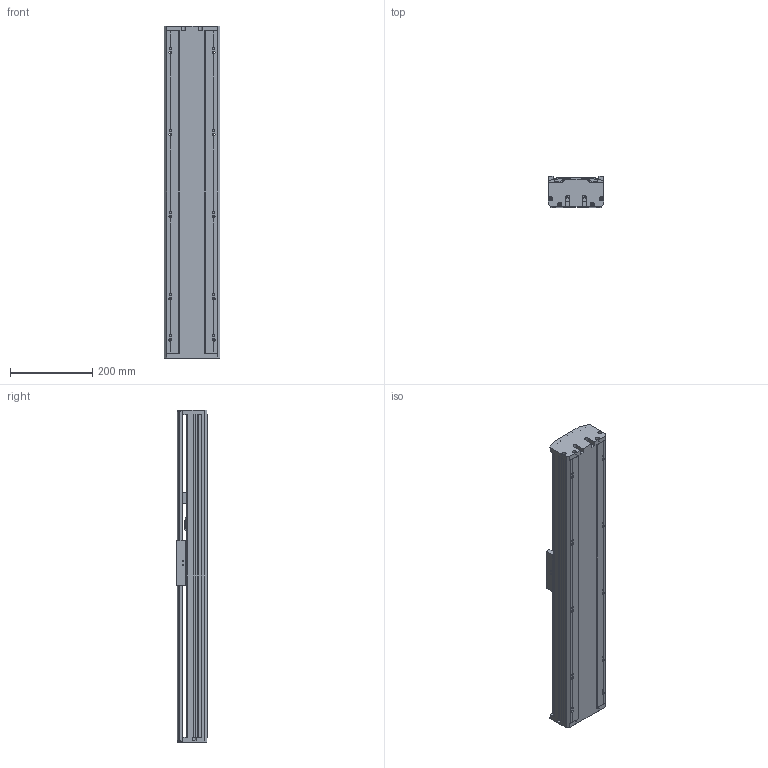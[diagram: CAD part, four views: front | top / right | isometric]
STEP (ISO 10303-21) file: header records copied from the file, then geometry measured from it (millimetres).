
FILE_DESCRIPTION(/* description */ (''),/* implementation_level */ '2;1');
FILE_NAME(/* name */ 'TKA136-FI-350_asm1.stp',/* time_stamp */ '2016-05-07T10:20:13+08:00',/* author */ (''),/* organization */ (''),/* preprocessor_version */ 'ST-DEVELOPER v15',/* originating_system */ 'SIEMENS PLM Software NX 8.5',/* authorisation */ '');
FILE_SCHEMA (('AUTOMOTIVE_DESIGN { 1 0 10303 214 3 1 1 1 }'));
Length unit declared in the file: millimetre
Products named in the file (3): 100-02; 100-01; TKA136-FI-350_asm1
Assembly tree (2 placements, depth 2):
  TKA136-FI-350_asm1
    100-01
    100-02
Bounding box: 136 x 75 x 809 mm (x, y, z)
Volume: 2652273.7 mm3; surface area: 978725.7 mm2
Topology: 2 solids, 12 shells, 937 faces, 2672 edges, 1751 vertices
Faces by surface type: cylinder 453, plane 434, cone 50
Full cylindrical faces by diameter (mm): 2.5 x4, 3.3 x8, 4.2 x8, 4.5 x20, 5 x8, 5.5 x14, 8 x20, 10 x9, 10.5 x4, 11.6 x1, 12 x8, 15 x3, 16 x5, 24 x3, 26 x1, 28 x1, 46 x1
Entity records: 32363 total; most frequent: CARTESIAN_POINT 8345, DIRECTION 4928, ORIENTED_EDGE 4900, EDGE_CURVE 2450, AXIS2_PLACEMENT_3D 1828, VERTEX_POINT 1703, LINE 1272, VECTOR 1272
